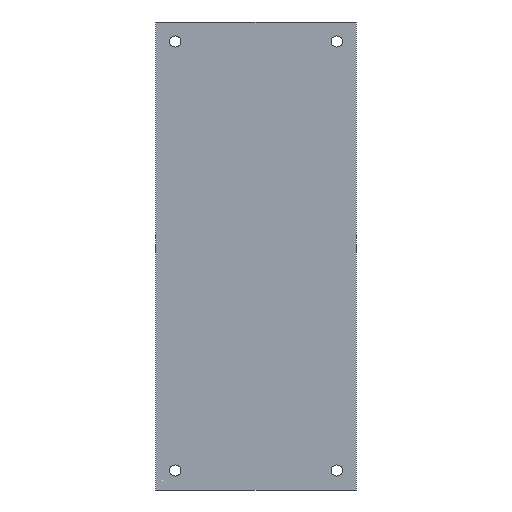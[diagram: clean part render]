
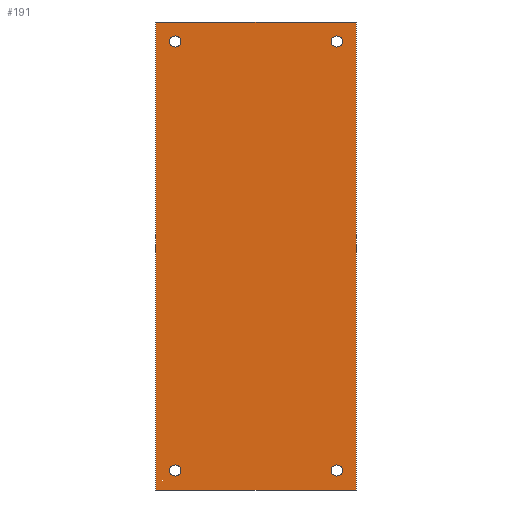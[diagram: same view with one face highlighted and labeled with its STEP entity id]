
A CAD part, front view. The second image highlights one B-rep face of the part: STEP entity #191.
In plain terms, the highlighted planar face has unit normal (0, -1, 0).
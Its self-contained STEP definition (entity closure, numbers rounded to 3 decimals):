
#32=CIRCLE('',#213,6.35);
#33=CIRCLE('',#214,6.35);
#34=CIRCLE('',#215,6.35);
#35=CIRCLE('',#216,6.35);
#60=ORIENTED_EDGE('',*,*,#92,.F.);
#61=ORIENTED_EDGE('',*,*,#93,.F.);
#62=ORIENTED_EDGE('',*,*,#94,.F.);
#63=ORIENTED_EDGE('',*,*,#95,.F.);
#64=ORIENTED_EDGE('',*,*,#76,.T.);
#65=ORIENTED_EDGE('',*,*,#80,.T.);
#66=ORIENTED_EDGE('',*,*,#83,.T.);
#67=ORIENTED_EDGE('',*,*,#86,.T.);
#76=EDGE_CURVE('',#96,#97,#112,.T.);
#80=EDGE_CURVE('',#97,#100,#116,.T.);
#83=EDGE_CURVE('',#100,#102,#119,.T.);
#86=EDGE_CURVE('',#102,#96,#122,.T.);
#92=EDGE_CURVE('',#108,#108,#32,.T.);
#93=EDGE_CURVE('',#109,#109,#33,.T.);
#94=EDGE_CURVE('',#110,#110,#34,.T.);
#95=EDGE_CURVE('',#111,#111,#35,.T.);
#96=VERTEX_POINT('',#277);
#97=VERTEX_POINT('',#278);
#100=VERTEX_POINT('',#286);
#102=VERTEX_POINT('',#292);
#108=VERTEX_POINT('',#310);
#109=VERTEX_POINT('',#312);
#110=VERTEX_POINT('',#314);
#111=VERTEX_POINT('',#316);
#112=LINE('',#276,#124);
#116=LINE('',#285,#128);
#119=LINE('',#291,#131);
#122=LINE('',#297,#134);
#124=VECTOR('',#226,1000.);
#128=VECTOR('',#232,1000.);
#131=VECTOR('',#237,1000.);
#134=VECTOR('',#242,1000.);
#145=EDGE_LOOP('',(#60));
#146=EDGE_LOOP('',(#61));
#147=EDGE_LOOP('',(#62));
#148=EDGE_LOOP('',(#63));
#149=EDGE_LOOP('',(#64,#65,#66,#67));
#167=FACE_BOUND('',#145,.T.);
#168=FACE_BOUND('',#146,.T.);
#169=FACE_BOUND('',#147,.T.);
#170=FACE_BOUND('',#148,.T.);
#171=FACE_BOUND('',#149,.T.);
#185=PLANE('',#212);
#191=ADVANCED_FACE('',(#167,#168,#169,#170,#171),#185,.T.);
#212=AXIS2_PLACEMENT_3D('',#308,#254,#255);
#213=AXIS2_PLACEMENT_3D('',#309,#256,#257);
#214=AXIS2_PLACEMENT_3D('',#311,#258,#259);
#215=AXIS2_PLACEMENT_3D('',#313,#260,#261);
#216=AXIS2_PLACEMENT_3D('',#315,#262,#263);
#226=DIRECTION('',(0.,0.,-1.));
#232=DIRECTION('',(1.,0.,0.));
#237=DIRECTION('',(0.,0.,1.));
#242=DIRECTION('',(-1.,0.,0.));
#254=DIRECTION('',(0.,-1.,0.));
#255=DIRECTION('',(0.,0.,-1.));
#256=DIRECTION('',(0.,-1.,0.));
#257=DIRECTION('',(1.,0.,0.));
#258=DIRECTION('',(0.,-1.,0.));
#259=DIRECTION('',(1.,0.,0.));
#260=DIRECTION('',(0.,-1.,0.));
#261=DIRECTION('',(1.,0.,0.));
#262=DIRECTION('',(0.,-1.,0.));
#263=DIRECTION('',(1.,0.,0.));
#276=CARTESIAN_POINT('',(-114.3,0.,266.7));
#277=CARTESIAN_POINT('',(-114.3,0.,266.7));
#278=CARTESIAN_POINT('',(-114.3,0.,-266.7));
#285=CARTESIAN_POINT('',(-114.3,0.,-266.7));
#286=CARTESIAN_POINT('',(114.3,0.,-266.7));
#291=CARTESIAN_POINT('',(114.3,0.,-266.7));
#292=CARTESIAN_POINT('',(114.3,0.,266.7));
#297=CARTESIAN_POINT('',(114.3,0.,266.7));
#308=CARTESIAN_POINT('',(-114.3,0.,-266.7));
#309=CARTESIAN_POINT('',(-92.075,0.,244.475));
#310=CARTESIAN_POINT('',(-85.725,0.,244.475));
#311=CARTESIAN_POINT('',(-92.075,0.,-244.475));
#312=CARTESIAN_POINT('',(-85.725,0.,-244.475));
#313=CARTESIAN_POINT('',(92.075,0.,-244.475));
#314=CARTESIAN_POINT('',(98.425,0.,-244.475));
#315=CARTESIAN_POINT('',(92.075,0.,244.475));
#316=CARTESIAN_POINT('',(98.425,0.,244.475));
